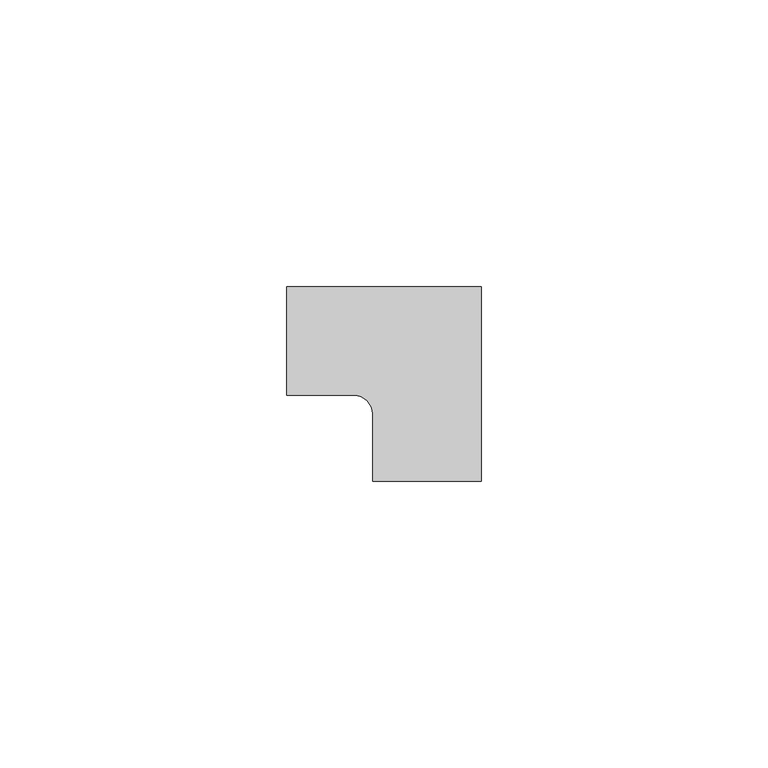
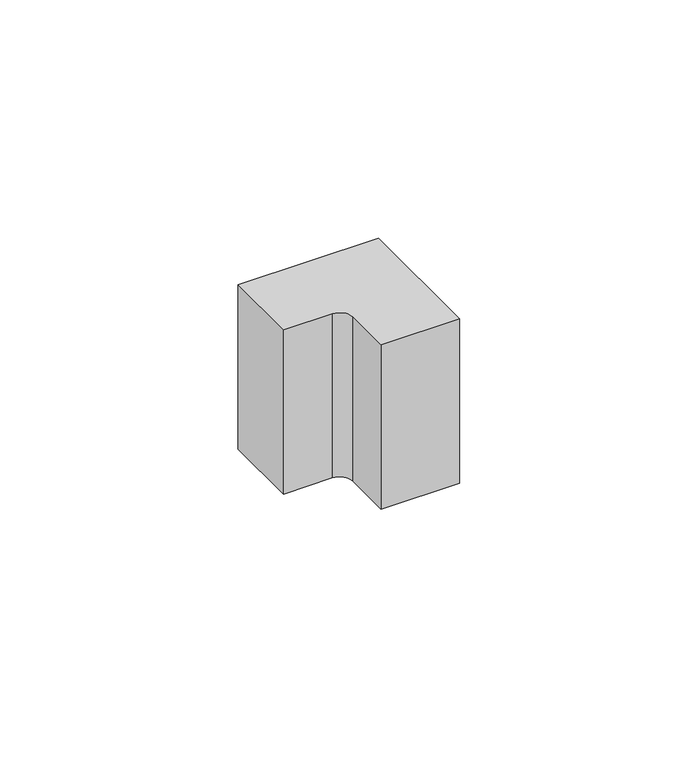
"""IFC4 building model written with IfcOpenShell, lengths in millimetres: proxy geometry, Внутренний_угол_КМВ : Внутренний угол КМВ 40х16."""

from ifc_helpers import new_model, si_unit, point, frame_2d, origin, origin_with_axes, place, context, project, spatial, polyline, circle_curve, trimmed, segment, composite_curve, outline, extrude, source, transform, mapped, element, save


def generic_models_41e2f946(model_context):
    return source(origin(), model_context, "Body", "SweptSolid", [
        extrude(outline(composite_curve([segment(polyline([(-15.0, 0.0), (-15.0, 19.0), (19.0114701, 19.0), (19.0114701, -15.0), (0.0, -15.0), (0.0, -3.184906)]), True, "CONTINUOUS"), segment(trimmed(circle_curve(frame_2d((-3.184906, -3.184906)), 3.184906), [point((0.0, -3.184906))], [point((-3.184906, 0.0))], True, "CARTESIAN"), True, "CONTINUOUS"), segment(polyline([(-3.184906, 0.0), (-15.0, 0.0)]), True, "CONTINUOUS")], self_intersect=False)), origin_with_axes(), (0.0, 0.0, 1.0), 42.0303508),
    ])


if __name__ == "__main__":
    model = new_model("IFC4")
    model_context = context("Model", 3, world=origin())
    ifc_project = project(units=[si_unit("LENGTHUNIT", "METRE", prefix="MILLI")], contexts=[model_context])
    site = spatial("IfcSite", under=ifc_project)
    building = spatial("IfcBuilding", under=site)
    placement = place(None, origin())
    generic_models_shape = generic_models_41e2f946(model_context)
    element("IfcBuildingElementProxy", 1, Name="Внутренний_угол_КМВ : Внутренний угол КМВ 40х16", ObjectType="Внутренний_угол_КМВ : Внутренний угол КМВ 40х16", at=placement, inside=building, context=model_context, shape_type="MappedRepresentation", body=[
        mapped(generic_models_shape, transform((0.0, 0.0, 0.0), x_axis=(1.0, 0.0, 0.0), y_axis=(0.0, 1.0, 0.0), z_axis=(0.0, 0.0, 1.0))),
    ])
    save(model, "model.ifc")
